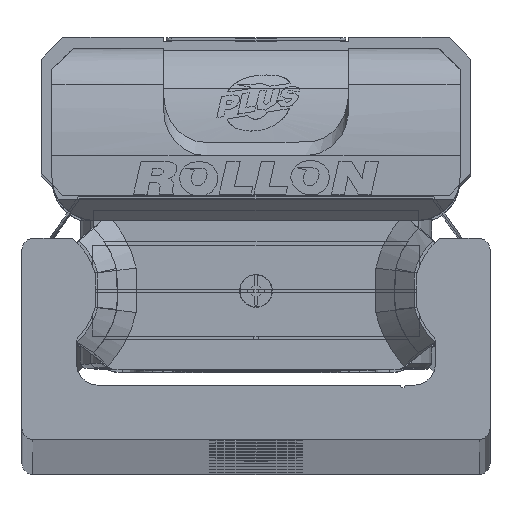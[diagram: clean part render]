
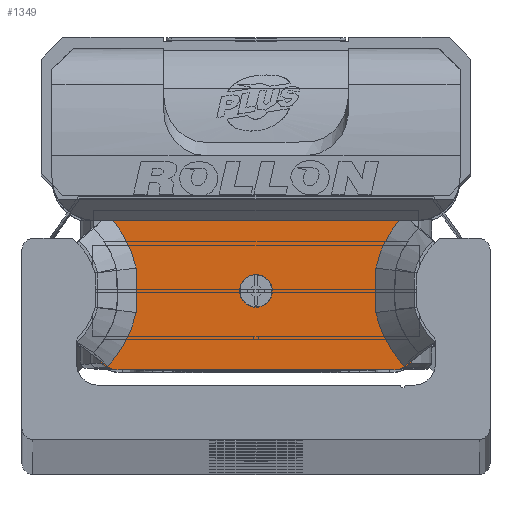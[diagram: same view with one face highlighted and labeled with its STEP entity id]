
A CAD part, top view. The second image highlights one B-rep face of the part: STEP entity #1349.
In plain terms, the highlighted planar face has unit normal (0, 0, 1) as drawn and (0, 0, -1) by its records, which use the part's own axes.
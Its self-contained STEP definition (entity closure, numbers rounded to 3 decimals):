
#1349 = ADVANCED_FACE( '', ( #3141, #3142 ), #3143, .F. );
#3141 = FACE_BOUND( '', #5514, .T. );
#3142 = FACE_OUTER_BOUND( '', #5515, .T. );
#3143 = PLANE( '', #5516 );
#5514 = EDGE_LOOP( '', ( #9270 ) );
#5515 = EDGE_LOOP( '', ( #9271, #9272, #9273, #9274, #9275, #9276, #9277, #9278, #9279, #9280, #9281, #9282 ) );
#5516 = AXIS2_PLACEMENT_3D( '', #9283, #9284, #9285 );
#9270 = ORIENTED_EDGE( '', *, *, #14176, .T. );
#9271 = ORIENTED_EDGE( '', *, *, #13917, .T. );
#9272 = ORIENTED_EDGE( '', *, *, #13999, .F. );
#9273 = ORIENTED_EDGE( '', *, *, #13763, .T. );
#9274 = ORIENTED_EDGE( '', *, *, #14177, .F. );
#9275 = ORIENTED_EDGE( '', *, *, #14066, .T. );
#9276 = ORIENTED_EDGE( '', *, *, #13745, .T. );
#9277 = ORIENTED_EDGE( '', *, *, #12976, .T. );
#9278 = ORIENTED_EDGE( '', *, *, #14178, .T. );
#9279 = ORIENTED_EDGE( '', *, *, #13909, .T. );
#9280 = ORIENTED_EDGE( '', *, *, #12910, .T. );
#9281 = ORIENTED_EDGE( '', *, *, #14179, .T. );
#9282 = ORIENTED_EDGE( '', *, *, #13092, .T. );
#9283 = CARTESIAN_POINT( '', ( 14.9, 7.35, -13.25 ) );
#9284 = DIRECTION( '', ( 0., 0., 1. ) );
#9285 = DIRECTION( '', ( 1., 0., 0. ) );
#12910 = EDGE_CURVE( '', #15194, #15200, #15202, .T. );
#12976 = EDGE_CURVE( '', #15320, #15318, #15321, .T. );
#13092 = EDGE_CURVE( '', #15533, #15531, #15534, .T. );
#13745 = EDGE_CURVE( '', #16653, #15320, #16654, .T. );
#13763 = EDGE_CURVE( '', #16685, #16683, #16686, .T. );
#13909 = EDGE_CURVE( '', #16920, #15194, #16921, .T. );
#13917 = EDGE_CURVE( '', #15531, #15734, #16930, .T. );
#13999 = EDGE_CURVE( '', #16685, #15734, #17059, .T. );
#14066 = EDGE_CURVE( '', #17155, #16653, #17156, .T. );
#14176 = EDGE_CURVE( '', #17314, #17314, #17315, .T. );
#14177 = EDGE_CURVE( '', #17155, #16683, #17316, .T. );
#14178 = EDGE_CURVE( '', #15318, #16920, #17317, .T. );
#14179 = EDGE_CURVE( '', #15200, #15533, #17318, .T. );
#15194 = VERTEX_POINT( '', #18599 );
#15200 = VERTEX_POINT( '', #18612 );
#15202 = B_SPLINE_CURVE_WITH_KNOTS( '', 2, ( #18615, #18616, #18617, #18618, #18619 ), .UNSPECIFIED., .F., .F., ( 3, 2, 3 ), ( 0.133, 0.5, 1. ), .UNSPECIFIED. );
#15318 = VERTEX_POINT( '', #18769 );
#15320 = VERTEX_POINT( '', #18772 );
#15321 = B_SPLINE_CURVE_WITH_KNOTS( '', 2, ( #18773, #18774, #18775 ), .UNSPECIFIED., .F., .F., ( 3, 3 ), ( 0., 1. ), .UNSPECIFIED. );
#15531 = VERTEX_POINT( '', #19105 );
#15533 = VERTEX_POINT( '', #19108 );
#15534 = B_SPLINE_CURVE_WITH_KNOTS( '', 2, ( #19109, #19110, #19111, #19112, #19113 ), .UNSPECIFIED., .F., .F., ( 3, 2, 3 ), ( 0., 0.5, 1. ), .UNSPECIFIED. );
#15734 = VERTEX_POINT( '', #19382 );
#16653 = VERTEX_POINT( '', #20578 );
#16654 = B_SPLINE_CURVE_WITH_KNOTS( '', 2, ( #20579, #20580, #20581, #20582, #20583 ), .UNSPECIFIED., .F., .F., ( 3, 2, 3 ), ( 0., 0.5, 1. ), .UNSPECIFIED. );
#16683 = VERTEX_POINT( '', #20619 );
#16685 = VERTEX_POINT( '', #20622 );
#16686 = LINE( '', #20623, #20624 );
#16920 = VERTEX_POINT( '', #20984 );
#16921 = LINE( '', #20985, #20986 );
#16930 = B_SPLINE_CURVE_WITH_KNOTS( '', 1, ( #21000, #21001 ), .UNSPECIFIED., .F., .F., ( 2, 2 ), ( 0., 1. ), .UNSPECIFIED. );
#17059 = CIRCLE( '', #21178, 2.5 );
#17155 = VERTEX_POINT( '', #21311 );
#17156 = B_SPLINE_CURVE_WITH_KNOTS( '', 1, ( #21312, #21313 ), .UNSPECIFIED., .F., .F., ( 2, 2 ), ( 0., 1. ), .UNSPECIFIED. );
#17314 = VERTEX_POINT( '', #21508 );
#17315 = CIRCLE( '', #21509, 1.5 );
#17316 = CIRCLE( '', #21510, 2.5 );
#17317 = B_SPLINE_CURVE_WITH_KNOTS( '', 2, ( #21511, #21512, #21513, #21514, #21515 ), .UNSPECIFIED., .F., .F., ( 3, 2, 3 ), ( 0., 0.5, 0.868 ), .UNSPECIFIED. );
#17318 = B_SPLINE_CURVE_WITH_KNOTS( '', 2, ( #21516, #21517, #21518 ), .UNSPECIFIED., .F., .F., ( 3, 3 ), ( 0., 1. ), .UNSPECIFIED. );
#18599 = CARTESIAN_POINT( '', ( 13.12, 6.4, -13.25 ) );
#18612 = CARTESIAN_POINT( '', ( 11.012, 2.045, -13.25 ) );
#18615 = CARTESIAN_POINT( '', ( 13.119, 6.4, -13.25 ) );
#18616 = CARTESIAN_POINT( '', ( 12.459, 5.608, -13.25 ) );
#18617 = CARTESIAN_POINT( '', ( 11.968, 4.684, -13.25 ) );
#18618 = CARTESIAN_POINT( '', ( 11.301, 3.427, -13.25 ) );
#18619 = CARTESIAN_POINT( '', ( 11.012, 2.045, -13.25 ) );
#18769 = CARTESIAN_POINT( '', ( -11.012, 2.045, -13.25 ) );
#18772 = CARTESIAN_POINT( '', ( -11.012, -2.045, -13.25 ) );
#18773 = CARTESIAN_POINT( '', ( -11.012, -2.045, -13.25 ) );
#18774 = CARTESIAN_POINT( '', ( -10.888, 0., -13.25 ) );
#18775 = CARTESIAN_POINT( '', ( -11.012, 2.045, -13.25 ) );
#19105 = CARTESIAN_POINT( '', ( 13.628, -6.965, -13.25 ) );
#19108 = CARTESIAN_POINT( '', ( 11.012, -2.045, -13.25 ) );
#19109 = CARTESIAN_POINT( '', ( 11.012, -2.045, -13.25 ) );
#19110 = CARTESIAN_POINT( '', ( 11.301, -3.43, -13.25 ) );
#19111 = CARTESIAN_POINT( '', ( 11.972, -4.69, -13.25 ) );
#19112 = CARTESIAN_POINT( '', ( 12.642, -5.95, -13.25 ) );
#19113 = CARTESIAN_POINT( '', ( 13.628, -6.965, -13.25 ) );
#19382 = CARTESIAN_POINT( '', ( 14.906, -5.717, -13.25 ) );
#20578 = CARTESIAN_POINT( '', ( -13.628, -6.965, -13.25 ) );
#20579 = CARTESIAN_POINT( '', ( -13.628, -6.965, -13.25 ) );
#20580 = CARTESIAN_POINT( '', ( -12.638, -5.946, -13.25 ) );
#20581 = CARTESIAN_POINT( '', ( -11.97, -4.691, -13.25 ) );
#20582 = CARTESIAN_POINT( '', ( -11.303, -3.437, -13.25 ) );
#20583 = CARTESIAN_POINT( '', ( -11.012, -2.045, -13.25 ) );
#20619 = CARTESIAN_POINT( '', ( -12.58, -7.3, -13.25 ) );
#20622 = CARTESIAN_POINT( '', ( 12.58, -7.3, -13.25 ) );
#20623 = CARTESIAN_POINT( '', ( 12.58, -7.3, -13.25 ) );
#20624 = VECTOR( '', #24587, 1000. );
#20984 = CARTESIAN_POINT( '', ( -13.119, 6.4, -13.25 ) );
#20985 = CARTESIAN_POINT( '', ( 14.9, 6.4, -13.25 ) );
#20986 = VECTOR( '', #24774, 1000. );
#21000 = CARTESIAN_POINT( '', ( 13.628, -6.965, -13.25 ) );
#21001 = CARTESIAN_POINT( '', ( 14.9, -5.728, -13.25 ) );
#21178 = AXIS2_PLACEMENT_3D( '', #24895, #24896, #24897 );
#21311 = CARTESIAN_POINT( '', ( -14.904, -5.718, -13.25 ) );
#21312 = CARTESIAN_POINT( '', ( -14.915, -5.713, -13.25 ) );
#21313 = CARTESIAN_POINT( '', ( -13.628, -6.965, -13.25 ) );
#21508 = CARTESIAN_POINT( '', ( 1.5, -0.05, -13.25 ) );
#21509 = AXIS2_PLACEMENT_3D( '', #25143, #25144, #25145 );
#21510 = AXIS2_PLACEMENT_3D( '', #25146, #25147, #25148 );
#21511 = CARTESIAN_POINT( '', ( -11.012, 2.045, -13.25 ) );
#21512 = CARTESIAN_POINT( '', ( -11.302, 3.432, -13.25 ) );
#21513 = CARTESIAN_POINT( '', ( -11.967, 4.685, -13.25 ) );
#21514 = CARTESIAN_POINT( '', ( -12.456, 5.606, -13.25 ) );
#21515 = CARTESIAN_POINT( '', ( -13.119, 6.4, -13.25 ) );
#21516 = CARTESIAN_POINT( '', ( 11.012, 2.045, -13.25 ) );
#21517 = CARTESIAN_POINT( '', ( 10.888, 0., -13.25 ) );
#21518 = CARTESIAN_POINT( '', ( 11.012, -2.045, -13.25 ) );
#24587 = DIRECTION( '', ( -1., 0., 0. ) );
#24774 = DIRECTION( '', ( 1., 0., 0. ) );
#24895 = CARTESIAN_POINT( '', ( 12.58, -4.8, -13.25 ) );
#24896 = DIRECTION( '', ( 0., 0., 1. ) );
#24897 = DIRECTION( '', ( 1., 0., 0. ) );
#25143 = CARTESIAN_POINT( '', ( 0., -0.05, -13.25 ) );
#25144 = DIRECTION( '', ( 0., 0., 1. ) );
#25145 = DIRECTION( '', ( 1., 0., 0. ) );
#25146 = CARTESIAN_POINT( '', ( -12.58, -4.8, -13.25 ) );
#25147 = DIRECTION( '', ( 0., 0., 1. ) );
#25148 = DIRECTION( '', ( 1., 0., 0. ) );
